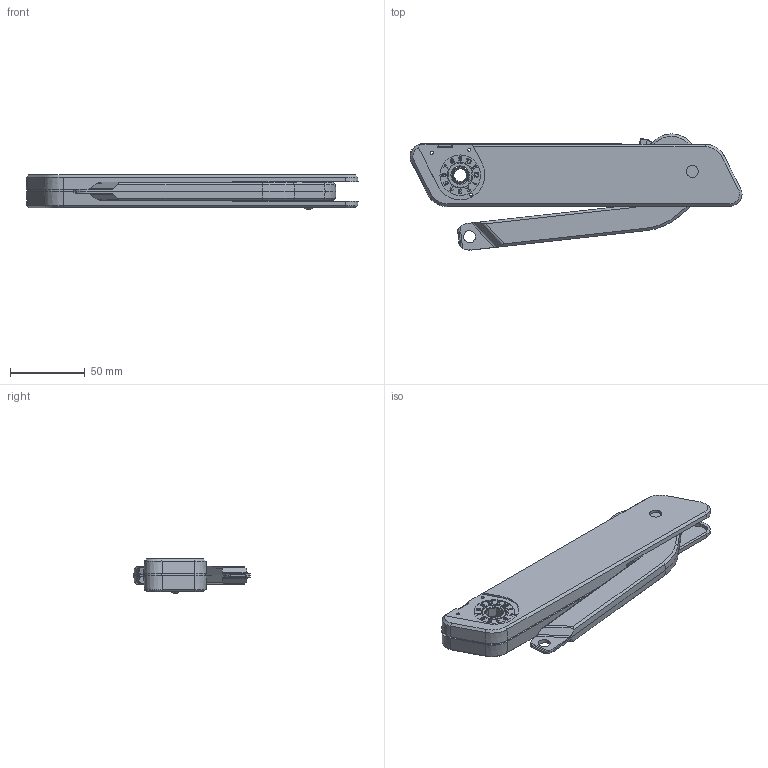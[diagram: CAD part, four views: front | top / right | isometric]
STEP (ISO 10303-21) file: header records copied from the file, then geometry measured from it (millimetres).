
FILE_DESCRIPTION((''),'2;1');
FILE_NAME('10_8575_551_103_0000_ASM','2018-11-15T14:31:51',('1ke04'),('Kesseboehmer'),'CREO PARAMETRIC BY PTC INC, 2018190','CREO PARAMETRIC BY PTC INC, 2018190','');
FILE_SCHEMA(('AUTOMOTIVE_DESIGN { 1 0 10303 214 1 1 1 1 }'));
Products named in the file (11): 0036_259_211; 0092_101_211; 09_0122_037_021_GEN; 0153_101_011; 0130_101_001; 09_0054_008_001; 0036_258_211; 0053_101_001; 09_0386_003_011; 09_0326_130_011_0000_00; 10_8575_551_103_0000_ASM
Assembly tree (11 placements, depth 2):
  10_8575_551_103_0000_ASM
    0036_259_211
    0092_101_211
    09_0122_037_021_GEN
    0153_101_011
    0130_101_001
    09_0054_008_001
    0036_258_211
    0053_101_001  x2
    09_0386_003_011
    09_0326_130_011_0000_00
Bounding box: 221.7 x 77.59 x 22.8 mm (x, y, z)
Surface area: 86876.8 mm2 (no closed solid volume)
Topology: 0 solids, 0 shells, 1762 faces, 9388 edges, 9312 vertices
Faces by surface type: plane 1201, cylinder 202, cone 154, bspline 96, sphere 60, torus 48, extrusion 1
Entity records: 139696 total; most frequent: CARTESIAN_POINT 35021, DIRECTION 16255, TRIMMED_CURVE 12275, VECTOR 11581, LINE 11580, DEFINITIONAL_REPRESENTATION 9018, PCURVE 9018, COMPOSITE_CURVE_SEGMENT 9018
